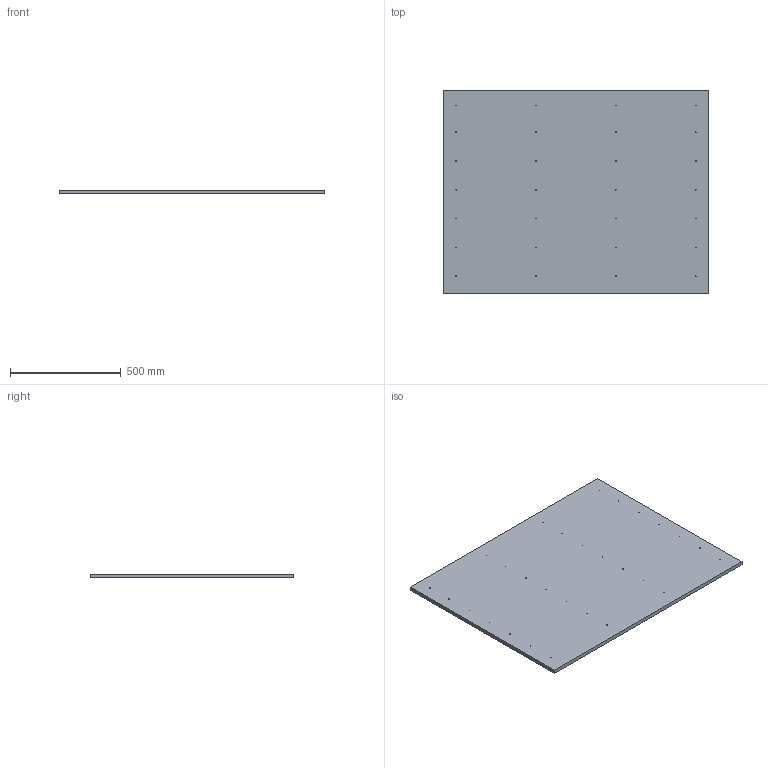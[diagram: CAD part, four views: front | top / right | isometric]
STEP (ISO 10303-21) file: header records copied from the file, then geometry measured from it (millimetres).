
FILE_DESCRIPTION(('Open CASCADE Model'),'2;1');
FILE_NAME('Open CASCADE Shape Model','2026-09-27T09:36:06',('Author'),( 'Open CASCADE'),'Open CASCADE STEP processor 7.9','Open CASCADE 7.9' ,'Unknown');
FILE_SCHEMA(('AUTOMOTIVE_DESIGN { 1 0 10303 214 1 1 1 1 }'));
Length unit declared in the file: millimetre
Products named in the file (1): Open CASCADE STEP translator 7.9 3
Bounding box: 1200 x 919.69 x 18 mm (x, y, z)
Volume: 19862891.2 mm3; surface area: 2287255.3 mm2
Topology: 1 solids, 1 shells, 34 faces, 96 edges, 64 vertices
Faces by surface type: cylinder 28, plane 6
Full cylindrical faces by diameter (mm): 2.5 x28
Entity records: 2506 total; most frequent: DIRECTION 414, CARTESIAN_POINT 387, ORIENTED_EDGE 192, PCURVE 192, DEFINITIONAL_REPRESENTATION 192, LINE 176, VECTOR 176, CIRCLE 112
